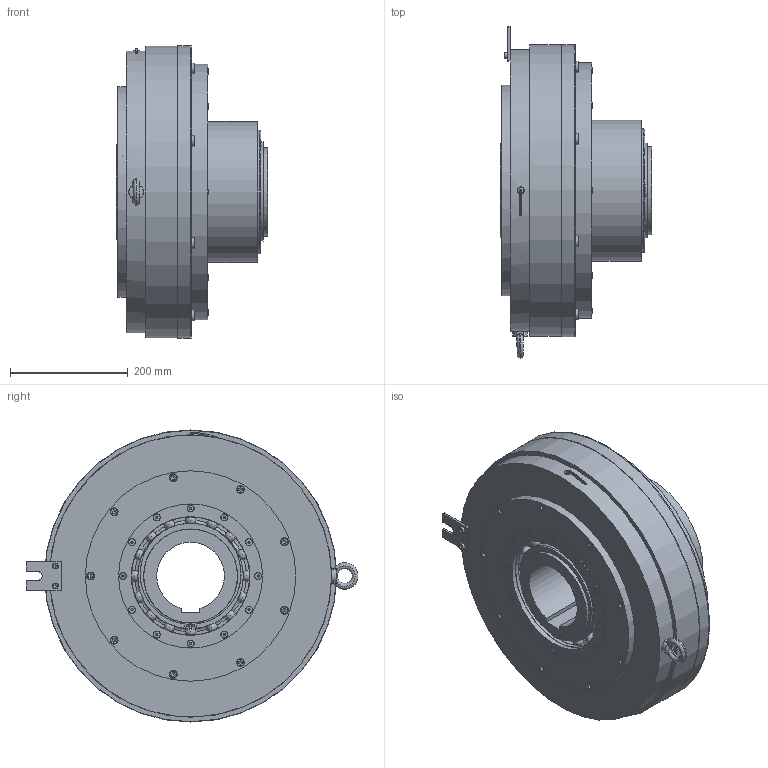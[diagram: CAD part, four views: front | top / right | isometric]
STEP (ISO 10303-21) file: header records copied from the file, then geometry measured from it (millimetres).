
FILE_DESCRIPTION(/* description */ (''),/* implementation_level */ '2;1');
FILE_NAME(/* name */ 'X:\INVENTOR\DISEGNI\08_Freni_Friz_Elettmag_Monodisco\08_26 EMSL_DF\EMSL_DF STEP\08_26_500_41 EMSL500_DF-R@STEP.stp',/* time_stamp */ '2018-04-24T09:56:58+02:00',/* author */ ('stefano'),/* organization */ (''),/* preprocessor_version */ 'ST-DEVELOPER v17',/* originating_system */ 'Autodesk Inventor 2018',/* authorisation */ '');
FILE_SCHEMA (('AUTOMOTIVE_DESIGN { 1 0 10303 214 3 1 1 }'));
Products named in the file (1): 08_26_500_41 EMSL500_DF-R_Substitute_1
Bounding box: 258 x 564.8 x 497 mm (x, y, z)
Volume: 22034499.9 mm3; surface area: 2324604.6 mm2
Topology: 1 solids, 1 shells, 1350 faces, 4417 edges, 3011 vertices
Faces by surface type: plane 518, cylinder 437, torus 198, cone 113, sphere 77, bspline 7
Full cylindrical faces by diameter (mm): 4 x7, 5 x16, 8.376 x12, 10 x2, 11 x1, 11.34 x12, 12 x12, 13 x9, 13.5 x9, 13.835 x8, 16 x12, 18 x24, 20 x16, 80 x8, 145 x1, 150 x3, 155 x1, 160 x2, 168 x1, 169.2 x6, 173 x1, 178 x1, 179.2 x4, 190.8 x6, 200.8 x4, 202 x2, 210 x4, 240 x2, 245 x1, 250 x1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
Entity records: 64006 total; most frequent: CARTESIAN_POINT 24531, ORIENTED_EDGE 8442, DIRECTION 8043, EDGE_CURVE 4221, AXIS2_PLACEMENT_3D 3427, VERTEX_POINT 3011, CIRCLE 2065, EDGE_LOOP 1820
